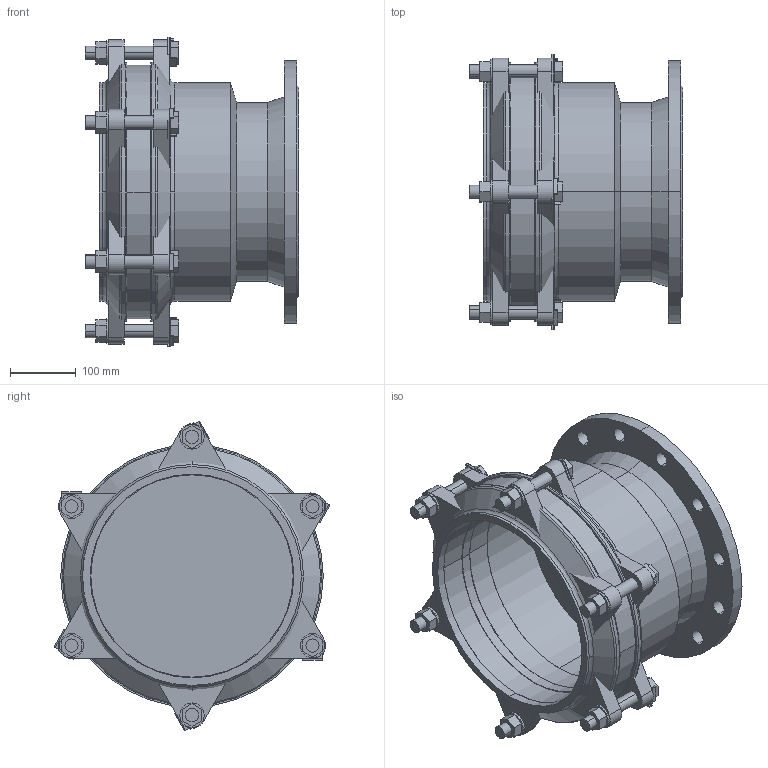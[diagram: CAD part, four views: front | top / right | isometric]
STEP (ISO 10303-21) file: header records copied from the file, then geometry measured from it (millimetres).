
FILE_DESCRIPTION(('STEP AP214'),'1');
FILE_NAME('EM000063 DN 250.STP','2015-01-29T14:06:19',(' '),(' '),'Spatial InterOp 3D',' ',' ');
FILE_SCHEMA(('automotive_design'));
Length unit declared in the file: millimetre
Products named in the file (34): 3D-Objekt
Bounding box: 325 x 420.33 x 471.96 mm (x, y, z)
Volume: 8140901.2 mm3; surface area: 1710545.7 mm2
Topology: 34 solids, 34 shells, 425 faces, 996 edges, 662 vertices
Faces by surface type: plane 271, cylinder 126, cone 16, torus 12
Entity records: 16463 total; most frequent: DIRECTION 2228, CARTESIAN_POINT 2117, ORIENTED_EDGE 1992, EDGE_CURVE 996, AXIS2_PLACEMENT_3D 773, LINE 682, VECTOR 682, VERTEX_POINT 662
